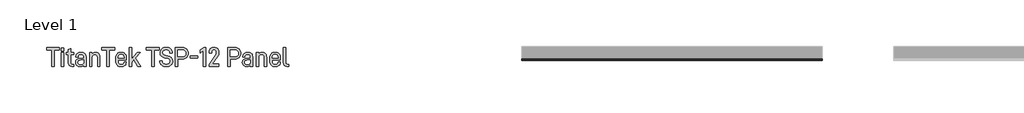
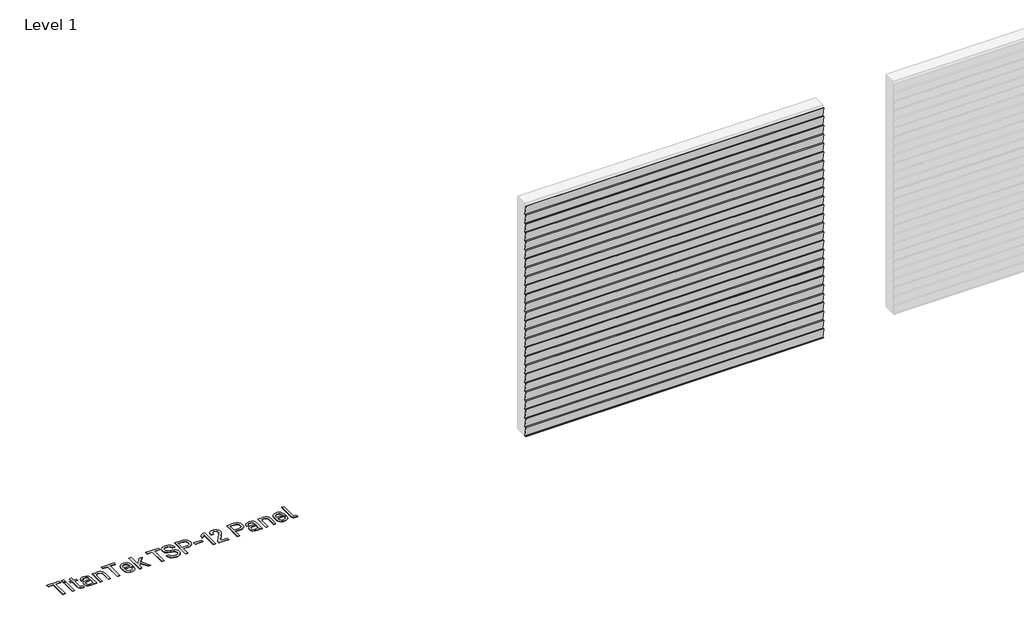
# One storey, part 28 of 33: 2 proxies.
"""IFC4 building model written with IfcOpenShell, lengths in millimetres."""

from ifc_helpers import new_model, si_unit, origin, origin_with_axes, place, context, project, spatial, polyline, outline, extrude, transform, mapped, element, save
from components import titantek_tsp_12_panel_aluminum_slate_gray_a38cbdb6

model = new_model("IFC4")

# Units and contexts
model_context = context("Model", 3, world=origin())
ifc_project = project(units=[si_unit("LENGTHUNIT", "METRE", prefix="MILLI")], contexts=[model_context])

# Site, building, storey
site = spatial("IfcSite", under=ifc_project)
building = spatial("IfcBuilding", under=site)
storey = spatial("IfcBuildingStorey", under=building, Name="Level 1", Elevation=0.0)

# Proxies
placement = place(None, origin())
element("IfcBuildingElementProxy", 1, Name="600mm Arial 2", ObjectType="600mm Arial 2", at=placement, inside=storey, context=model_context, shape_type="SweptSolid", body=[
    extrude(outline(polyline([(-9914.9924556, 107220.4128343), (-9914.9924556, 106952.9873502), (-9954.4439015, 106952.9873502), (-9954.4439015, 107220.4128343), (-10038.8787304, 107220.4128343), (-10038.8787304, 107257.3166776), (-9830.5576267, 107257.3166776), (-9830.5576267, 107220.4128343), (-9914.9924556, 107220.4128343)])), origin_with_axes(), (0.0, 0.0, 1.0), 5.0),
    extrude(outline(polyline([(-9763.1553408, 107253.0221475), (-9763.1553408, 107205.8551051), (-9802.6067867, 107205.8551051), (-9802.6067867, 107253.0221475), (-9763.1553408, 107253.0221475)])), origin_with_axes(), (0.0, 0.0, 1.0), 5.0),
    extrude(outline(polyline([(-9764.0288046, 107178.8505176), (-9764.0288046, 106952.9873502), (-9801.733323, 106952.9873502), (-9801.733323, 107178.8505176), (-9764.0288046, 107178.8505176)])), origin_with_axes(), (0.0, 0.0, 1.0), 5.0),
    extrude(outline(polyline([(-9648.294858, 107012.601251), (-9646.8208879, 107001.5191797), (-9642.3989777, 106993.6034145), (-9635.0291273, 106988.8539554), (-9624.7113368, 106987.2708023), (-9603.2386864, 106987.2708023), (-9603.2386864, 106952.9873502), (-9629.3698101, 106952.9873502), (-9653.1535001, 106956.9543314), (-9671.3688587, 106968.855275), (-9682.6692959, 106987.3981825), (-9686.4361083, 107011.2910554), (-9686.4361083, 107147.1146681), (-9720.2828285, 107147.1146681), (-9720.2828285, 107178.8505176), (-9686.4361083, 107178.8505176), (-9686.4361083, 107226.8910237), (-9648.294858, 107244.8698192), (-9648.294858, 107178.8505176), (-9599.3808881, 107178.8505176), (-9599.3808881, 107147.1146681), (-9648.294858, 107147.1146681), (-9648.294858, 107012.601251)])), origin_with_axes(), (0.0, 0.0, 1.0), 5.0),
    extrude(outline(polyline([(-9422.8684225, 107162.1091291), (-9413.2830677, 107151.3409589), (-9406.4363858, 107138.2526505), (-9400.9590402, 107105.1156196), (-9400.9590402, 106952.9873502), (-9438.2996154, 106952.9873502), (-9438.2996154, 106969.2920069), (-9456.7151427, 106956.8451485), (-9473.7476858, 106952.0410978), (-9493.9829293, 106950.4397476), (-9526.0281305, 106954.7160806), (-9550.1029751, 106967.5450794), (-9565.2248162, 106989.3270816), (-9570.2654299, 107018.5699199), (-9565.1338304, 107046.2114081), (-9549.7390318, 107067.4111012), (-9525.063681, 107080.6222403), (-9493.1094655, 107085.0259534), (-9438.7363472, 107085.0259534), (-9438.7363472, 107105.5523515), (-9441.6296959, 107124.441005), (-9450.3097419, 107138.1616647), (-9464.2305704, 107146.1866129), (-9483.7197302, 107148.8615956), (-9502.2262434, 107146.6051476), (-9515.819523, 107139.8358036), (-9524.1720201, 107129.4816187), (-9526.9561857, 107115.4516073), (-9526.9561857, 107109.8468816), (-9563.8600291, 107109.8468816), (-9563.8600291, 107116.2522824), (-9558.4008807, 107143.2932642), (-9542.0234354, 107164.2927885), (-9516.8203668, 107177.4493362), (-9484.1564621, 107181.8348521), (-9448.6719974, 107176.9034213), (-9434.5600987, 107170.7391329), (-9422.8684225, 107162.1091291)]), holes=[polyline([(-9450.6736851, 106994.5496669), (-9441.7206817, 107009.4531421), (-9438.7363472, 107031.0167784), (-9438.7363472, 107054.9642428), (-9488.8149354, 107054.9642428), (-9507.9538, 107052.7168933), (-9521.6244175, 107045.974845), (-9529.826788, 107034.7380979), (-9532.5609115, 107019.0066518), (-9529.8540837, 107003.0522906), (-9521.7336004, 106991.6563182), (-9508.1994616, 106984.8187348), (-9489.2516673, 106982.5395404), (-9466.104878, 106985.542072), (-9450.6736851, 106994.5496669)])]), origin_with_axes(), (0.0, 0.0, 1.0), 5.0),
    extrude(outline(polyline([(-9306.6977441, 107178.8505176), (-9306.6977441, 107160.4349903), (-9288.2822167, 107173.6825238), (-9271.1222935, 107179.4692211), (-9252.2518372, 107181.3981202), (-9219.9154813, 107175.9389718), (-9206.7907787, 107169.1150363), (-9195.6950595, 107159.5615265), (-9187.0650557, 107147.9790333), (-9180.9007673, 107134.1946835), (-9175.9693365, 107100.0204144), (-9175.9693365, 106952.9873502), (-9213.673855, 106952.9873502), (-9213.673855, 107095.7258843), (-9216.6763866, 107118.1083928), (-9225.6839815, 107133.8671346), (-9240.3781893, 107143.4752358), (-9259.567096, 107146.6779363), (-9278.7378056, 107143.4752358), (-9293.3774219, 107133.8671346), (-9303.0401146, 107117.453295), (-9306.2610122, 107095.7258843), (-9306.2610122, 106952.9873502), (-9343.9655306, 106952.9873502), (-9343.9655306, 107178.8505176), (-9306.6977441, 107178.8505176)])), origin_with_axes(), (0.0, 0.0, 1.0), 5.0),
    extrude(outline(polyline([(-9025.2240514, 107220.4128343), (-9025.2240514, 106952.9873502), (-9064.6754974, 106952.9873502), (-9064.6754974, 107220.4128343), (-9149.1103263, 107220.4128343), (-9149.1103263, 107257.3166776), (-8940.7892225, 107257.3166776), (-8940.7892225, 107220.4128343), (-9025.2240514, 107220.4128343)])), origin_with_axes(), (0.0, 0.0, 1.0), 5.0),
    extrude(outline(polyline([(-8884.5235994, 107047.2486463), (-8881.1025331, 107017.8329349), (-8870.8393341, 106998.8805913), (-8854.3527058, 106988.5900965), (-8832.2613519, 106985.1599316), (-8812.990558, 106987.7257314), (-8798.8513635, 106995.4231306), (-8790.1713175, 107007.1966941), (-8787.2779689, 107022.86445), (-8787.2779689, 107028.3963871), (-8750.3741256, 107028.3963871), (-8750.3741256, 107021.9909863), (-8756.0516399, 106992.8391337), (-8763.1485329, 106980.528754), (-8773.084183, 106969.7287387), (-8799.7976159, 106955.2619954), (-8834.3722226, 106950.4397476), (-8853.3222916, 106951.9387388), (-8870.2843206, 106956.4357123), (-8885.2583098, 106963.9306682), (-8898.2442591, 106974.4236064), (-8908.7371973, 106988.0237099), (-8916.2321532, 107004.8401617), (-8920.7291267, 107024.8729617), (-8922.2281179, 107048.1221101), (-8922.2281179, 107085.8266285), (-8920.7314014, 107108.5321367), (-8916.2412518, 107128.1714231), (-8908.7576691, 107144.7444879), (-8898.2806535, 107158.2513309), (-8885.4971476, 107168.5691214), (-8870.7301511, 107175.9389718), (-8853.979664, 107180.360882), (-8835.2456864, 107181.8348521), (-8816.8438069, 107180.360882), (-8800.2161506, 107175.9389718), (-8785.3627176, 107168.5691214), (-8772.2835079, 107158.2513309), (-8761.9657174, 107144.9082623), (-8754.595867, 107128.389789), (-8750.1739568, 107108.6959111), (-8748.6999867, 107085.8266285), (-8748.6999867, 107055.8377065), (-8884.5235994, 107055.8377065), (-8884.5235994, 107047.2486463)]), holes=[polyline([(-8871.2760659, 107133.4304027), (-8881.2117161, 107115.30603), (-8884.5235994, 107086.7000923), (-8786.4045051, 107086.2633604), (-8786.4045051, 107089.6844267), (-8789.6254027, 107116.9255774), (-8799.2880954, 107134.3038665), (-8814.9012599, 107143.5844188), (-8835.2456864, 107146.6779363), (-8855.60831, 107143.3660529), (-8871.2760659, 107133.4304027)])]), origin_with_axes(), (0.0, 0.0, 1.0), 5.0),
    extrude(outline(polyline([(-8663.391694, 107020.3168474), (-8663.391694, 106952.9873502), (-8701.0962125, 106952.9873502), (-8701.0962125, 107257.3166776), (-8663.391694, 107257.3166776), (-8663.391694, 107070.8321675), (-8575.0990669, 107178.8505176), (-8528.3687564, 107178.8505176), (-8602.5403863, 107091.8680861), (-8517.6688255, 106952.9873502), (-8563.5256722, 106952.9873502), (-8627.7980463, 107062.6798392), (-8663.391694, 107020.3168474)])), origin_with_axes(), (0.0, 0.0, 1.0), 5.0),
    extrude(outline(polyline([(-8303.1606868, 107220.4128343), (-8303.1606868, 106952.9873502), (-8342.6121327, 106952.9873502), (-8342.6121327, 107220.4128343), (-8427.0469617, 107220.4128343), (-8427.0469617, 107257.3166776), (-8218.7258579, 107257.3166776), (-8218.7258579, 107220.4128343), (-8303.1606868, 107220.4128343)])), origin_with_axes(), (0.0, 0.0, 1.0), 5.0),
    extrude(outline(polyline([(-8180.9485508, 106973.1498051), (-8193.1360997, 106986.7931268), (-8202.3302155, 107003.3388959), (-8208.5308982, 107022.7871121), (-8211.7381479, 107045.1377756), (-8172.3594906, 107045.1377756), (-8166.7593142, 107019.4388344), (-8153.8165831, 107001.0824478), (-8133.5312975, 106990.0686159), (-8105.9034572, 106986.3973386), (-8077.8616314, 106989.7274191), (-8057.9357397, 106999.7176607), (-8046.0347961, 107015.5855855), (-8042.0678149, 107037.4221792), (-8045.1795295, 107057.020522), (-8054.5146734, 107071.2688994), (-8070.7647385, 107081.0225779), (-8093.8933306, 107087.1368241), (-8127.3761076, 107092.7415498), (-8160.1491953, 107102.3678482), (-8184.806349, 107118.4359417), (-8193.7866482, 107129.313295), (-8200.2011476, 107142.2196317), (-8205.3327471, 107174.1192557), (-8203.5903689, 107193.5902184), (-8198.3632343, 107210.8047331), (-8189.6513432, 107225.7627997), (-8177.4546958, 107238.4644184), (-8162.7195444, 107248.4000685), (-8145.8826208, 107255.4969615), (-8105.9034572, 107261.1744758), (-8068.7448536, 107255.8063132), (-8052.8132388, 107249.0961099), (-8038.6467486, 107239.7018254), (-8026.2089888, 107226.8455308), (-8016.7737606, 107210.9867047), (-8010.341064, 107192.1253469), (-8006.9108991, 107170.2614574), (-8046.362345, 107170.2614574), (-8051.2300857, 107194.4636821), (-8062.8489733, 107211.7509854), (-8081.2190077, 107222.1233674), (-8106.340189, 107225.5808281), (-8132.2529469, 107222.2507476), (-8150.8868402, 107212.260506), (-8162.4602348, 107196.6473415), (-8166.318033, 107176.302915), (-8163.4246844, 107158.5060912), (-8154.7446384, 107145.4405293), (-8139.3134455, 107135.9052167), (-8117.0401199, 107129.5726045), (-8082.7566679, 107123.6039356), (-8048.6915817, 107113.613694), (-8023.6522876, 107096.5993481), (-8014.4490732, 107085.285263), (-8007.8753487, 107071.9421944), (-8002.616369, 107039.1691067), (-8004.4133387, 107019.1567784), (-8009.8042478, 107001.555574), (-8018.7890962, 106986.3654935), (-8031.367884, 106973.586537), (-8046.753584, 106963.4598166), (-8064.6686894, 106956.226445), (-8085.1132003, 106951.886422), (-8108.0871165, 106950.4397476), (-8149.0125325, 106956.117262), (-8166.1042164, 106963.2141549), (-8180.9485508, 106973.1498051)])), origin_with_axes(), (0.0, 0.0, 1.0), 5.0),
    extrude(outline(polyline([(-7776.5348357, 107233.2964245), (-7765.102469, 107219.8396237), (-7756.9364929, 107203.926206), (-7752.0369072, 107185.5561716), (-7750.4037119, 107164.7295204), (-7752.0642029, 107145.044741), (-7757.0456758, 107127.5527196), (-7765.3481307, 107112.2534562), (-7776.9715676, 107099.1469507), (-7791.0288748, 107088.6380899), (-7807.5064044, 107081.1317609), (-7826.4041565, 107076.6279634), (-7847.7221311, 107075.1266976), (-7918.399906, 107075.1266976), (-7918.399906, 106952.9873502), (-7958.2880838, 106952.9873502), (-7958.2880838, 107257.3166776), (-7847.7221311, 107257.3166776), (-7826.5406352, 107255.8154118), (-7807.6155874, 107251.3116143), (-7790.9469875, 107243.8052853), (-7776.5348357, 107233.2964245)]), holes=[polyline([(-7805.2863507, 107125.2780744), (-7794.040505, 107141.5827311), (-7790.2918897, 107164.7295204), (-7794.1496879, 107189.3502798), (-7805.7230826, 107206.7285689), (-7824.7937078, 107216.9917679), (-7850.2697337, 107220.4128343), (-7918.399906, 107220.4128343), (-7918.399906, 107112.0305409), (-7850.2697337, 107112.0305409), (-7824.029427, 107115.3424243), (-7805.2863507, 107125.2780744)])]), origin_with_axes(), (0.0, 0.0, 1.0), 5.0),
    extrude(outline(polyline([(-7593.9809125, 107124.4046107), (-7593.9809125, 107087.573556), (-7720.3420013, 107087.573556), (-7720.3420013, 107124.4046107), (-7593.9809125, 107124.4046107)])), origin_with_axes(), (0.0, 0.0, 1.0), 5.0),
    extrude(outline(polyline([(-7556.49476, 107170.2614574), (-7556.49476, 107216.1183042), (-7502.9223168, 107257.3166776), (-7466.0912621, 107257.3166776), (-7466.0912621, 106952.9873502), (-7505.542708, 106952.9873502), (-7505.542708, 107208.4027077), (-7556.49476, 107170.2614574)])), origin_with_axes(), (0.0, 0.0, 1.0), 5.0),
    extrude(outline(polyline([(-7312.6527971, 107127.4617338), (-7299.114109, 107153.2471115), (-7294.601213, 107176.7396469), (-7294.601213, 107183.1450477), (-7297.2943929, 107200.9418716), (-7305.3739326, 107214.0074335), (-7318.2211285, 107222.3599305), (-7334.4893908, 107225.1440962), (-7350.8668361, 107222.4691135), (-7363.1681172, 107214.4441653), (-7370.9201079, 107200.6143227), (-7373.5041049, 107181.3981202), (-7373.5041049, 107169.4607823), (-7412.8827621, 107169.4607823), (-7412.8827621, 107183.1450477), (-7407.5327967, 107214.7535171), (-7391.4829003, 107240.1385572), (-7365.8794942, 107256.1884536), (-7333.6159271, 107261.5384191), (-7311.4335873, 107258.9726193), (-7292.0536104, 107251.27522), (-7276.0946999, 107239.3924736), (-7264.1755591, 107223.3971687), (-7256.8057088, 107204.9998386), (-7254.349092, 107184.0185115), (-7254.349092, 107176.7396469), (-7256.0596251, 107158.0875565), (-7261.1912247, 107140.7092673), (-7280.9169476, 107105.9890833), (-7361.9307102, 106989.4544617), (-7254.349092, 106989.4544617), (-7254.349092, 106952.9873502), (-7412.8827621, 106952.9873502), (-7412.8827621, 106983.849736), (-7312.6527971, 107127.4617338)])), origin_with_axes(), (0.0, 0.0, 1.0), 5.0),
    extrude(outline(polyline([(-6928.6926914, 107233.2964245), (-6917.2603248, 107219.8396237), (-6909.0943486, 107203.926206), (-6904.1947629, 107185.5561716), (-6902.5615677, 107164.7295204), (-6904.2220586, 107145.044741), (-6909.2035316, 107127.5527196), (-6917.5059865, 107112.2534562), (-6929.1294233, 107099.1469507), (-6943.1867305, 107088.6380899), (-6959.6642601, 107081.1317609), (-6978.5620123, 107076.6279634), (-6999.8799869, 107075.1266976), (-7070.5577618, 107075.1266976), (-7070.5577618, 106952.9873502), (-7110.4459396, 106952.9873502), (-7110.4459396, 107257.3166776), (-6999.8799869, 107257.3166776), (-6978.698491, 107255.8154118), (-6959.7734431, 107251.3116143), (-6943.1048433, 107243.8052853), (-6928.6926914, 107233.2964245)]), holes=[polyline([(-6957.4442065, 107125.2780744), (-6946.1983607, 107141.5827311), (-6942.4497455, 107164.7295204), (-6946.3075437, 107189.3502798), (-6957.8809383, 107206.7285689), (-6976.9515635, 107216.9917679), (-7002.4275895, 107220.4128343), (-7070.5577618, 107220.4128343), (-7070.5577618, 107112.0305409), (-7002.4275895, 107112.0305409), (-6976.1872827, 107115.3424243), (-6957.4442065, 107125.2780744)])]), origin_with_axes(), (0.0, 0.0, 1.0), 5.0),
    extrude(outline(polyline([(-6730.2708435, 107162.1091291), (-6720.6854887, 107151.3409589), (-6713.8388067, 107138.2526505), (-6708.3614611, 107105.1156196), (-6708.3614611, 106952.9873502), (-6745.7020363, 106952.9873502), (-6745.7020363, 106969.2920069), (-6764.1175637, 106956.8451485), (-6781.1501067, 106952.0410978), (-6801.3853502, 106950.4397476), (-6833.4305515, 106954.7160806), (-6857.505396, 106967.5450794), (-6872.6272371, 106989.3270816), (-6877.6678508, 107018.5699199), (-6872.5362513, 107046.2114081), (-6857.1414528, 107067.4111012), (-6832.4661019, 107080.6222403), (-6800.5118865, 107085.0259534), (-6746.1387682, 107085.0259534), (-6746.1387682, 107105.5523515), (-6749.0321169, 107124.441005), (-6757.7121629, 107138.1616647), (-6771.6329913, 107146.1866129), (-6791.1221512, 107148.8615956), (-6809.6286643, 107146.6051476), (-6823.2219439, 107139.8358036), (-6831.574441, 107129.4816187), (-6834.3586067, 107115.4516073), (-6834.3586067, 107109.8468816), (-6871.26245, 107109.8468816), (-6871.26245, 107116.2522824), (-6865.8033016, 107143.2932642), (-6849.4258563, 107164.2927885), (-6824.2227878, 107177.4493362), (-6791.5588831, 107181.8348521), (-6756.0744183, 107176.9034213), (-6741.9625197, 107170.7391329), (-6730.2708435, 107162.1091291)]), holes=[polyline([(-6758.0761061, 106994.5496669), (-6749.1231027, 107009.4531421), (-6746.1387682, 107031.0167784), (-6746.1387682, 107054.9642428), (-6796.2173564, 107054.9642428), (-6815.3562209, 107052.7168933), (-6829.0268384, 107045.974845), (-6837.2292089, 107034.7380979), (-6839.9633324, 107019.0066518), (-6837.2565047, 107003.0522906), (-6829.1360214, 106991.6563182), (-6815.6018826, 106984.8187348), (-6796.6540883, 106982.5395404), (-6773.507299, 106985.542072), (-6758.0761061, 106994.5496669)])]), origin_with_axes(), (0.0, 0.0, 1.0), 5.0),
    extrude(outline(polyline([(-6614.100165, 107178.8505176), (-6614.100165, 107160.4349903), (-6595.6846377, 107173.6825238), (-6578.5247145, 107179.4692211), (-6559.6542581, 107181.3981202), (-6527.3179023, 107175.9389718), (-6514.1931996, 107169.1150363), (-6503.0974804, 107159.5615265), (-6494.4674767, 107147.9790333), (-6488.3031882, 107134.1946835), (-6483.3717575, 107100.0204144), (-6483.3717575, 106952.9873502), (-6521.0762759, 106952.9873502), (-6521.0762759, 107095.7258843), (-6524.0788075, 107118.1083928), (-6533.0864024, 107133.8671346), (-6547.7806103, 107143.4752358), (-6566.969517, 107146.6779363), (-6586.1402265, 107143.4752358), (-6600.7798429, 107133.8671346), (-6610.4425356, 107117.453295), (-6613.6634332, 107095.7258843), (-6613.6634332, 106952.9873502), (-6651.3679516, 106952.9873502), (-6651.3679516, 107178.8505176), (-6614.100165, 107178.8505176)])), origin_with_axes(), (0.0, 0.0, 1.0), 5.0),
    extrude(outline(polyline([(-6396.8988465, 107047.2486463), (-6393.4777801, 107017.8329349), (-6383.2145811, 106998.8805913), (-6366.7279529, 106988.5900965), (-6344.6365989, 106985.1599316), (-6325.365805, 106987.7257314), (-6311.2266106, 106995.4231306), (-6302.5465646, 107007.1966941), (-6299.6532159, 107022.86445), (-6299.6532159, 107028.3963871), (-6262.7493726, 107028.3963871), (-6262.7493726, 107021.9909863), (-6268.4268869, 106992.8391337), (-6275.5237799, 106980.528754), (-6285.45943, 106969.7287387), (-6312.172863, 106955.2619954), (-6346.7474696, 106950.4397476), (-6365.6975386, 106951.9387388), (-6382.6595677, 106956.4357123), (-6397.6335569, 106963.9306682), (-6410.6195062, 106974.4236064), (-6421.1124444, 106988.0237099), (-6428.6074002, 107004.8401617), (-6433.1043737, 107024.8729617), (-6434.6033649, 107048.1221101), (-6434.6033649, 107085.8266285), (-6433.1066484, 107108.5321367), (-6428.6164988, 107128.1714231), (-6421.1329162, 107144.7444879), (-6410.6559005, 107158.2513309), (-6397.8723946, 107168.5691214), (-6383.1053981, 107175.9389718), (-6366.3549111, 107180.360882), (-6347.6209334, 107181.8348521), (-6329.2190539, 107180.360882), (-6312.5913977, 107175.9389718), (-6297.7379647, 107168.5691214), (-6284.6587549, 107158.2513309), (-6274.3409644, 107144.9082623), (-6266.971114, 107128.389789), (-6262.5492038, 107108.6959111), (-6261.0752337, 107085.8266285), (-6261.0752337, 107055.8377065), (-6396.8988465, 107055.8377065), (-6396.8988465, 107047.2486463)]), holes=[polyline([(-6383.651313, 107133.4304027), (-6393.5869631, 107115.30603), (-6396.8988465, 107086.7000923), (-6298.7797522, 107086.2633604), (-6298.7797522, 107089.6844267), (-6302.0006497, 107116.9255774), (-6311.6633424, 107134.3038665), (-6327.2765069, 107143.5844188), (-6347.6209334, 107146.6779363), (-6367.983557, 107143.3660529), (-6383.651313, 107133.4304027)])]), origin_with_axes(), (0.0, 0.0, 1.0), 5.0),
    extrude(outline(polyline([(-6198.4769985, 106968.855275), (-6209.7228442, 106988.362632), (-6213.4714595, 107014.2753899), (-6213.4714595, 107257.3166776), (-6175.7669411, 107257.3166776), (-6175.7669411, 107016.0223174), (-6174.3839568, 107002.6110094), (-6170.235004, 106994.112935), (-6163.247294, 106989.6364333), (-6152.6201518, 106988.1442661), (-6130.7835581, 106988.1442661), (-6130.7835581, 106952.9873502), (-6155.6044862, 106952.9873502), (-6180.4800059, 106956.9543314), (-6198.4769985, 106968.855275)])), origin_with_axes(), (0.0, 0.0, 1.0), 5.0),
])
titantek_tsp_12_panel_aluminum_slate_gray_shape = titantek_tsp_12_panel_aluminum_slate_gray_a38cbdb6(model_context)
element("IfcBuildingElementProxy", 2, Name="TitanTek TSP-12 Panel : Aluminum Slate Gray", ObjectType="TitanTek TSP-12 Panel : Aluminum Slate Gray", at=placement, inside=storey, context=model_context, shape_type="MappedRepresentation", body=[
    mapped(titantek_tsp_12_panel_aluminum_slate_gray_shape, transform((-2360.5897817, 107078.6095025, 0.0), x_axis=(1.0, 0.0, 0.0), y_axis=(0.0, 1.0, 0.0), z_axis=(0.0, 0.0, 1.0))),
])

save(model, "model.ifc")
